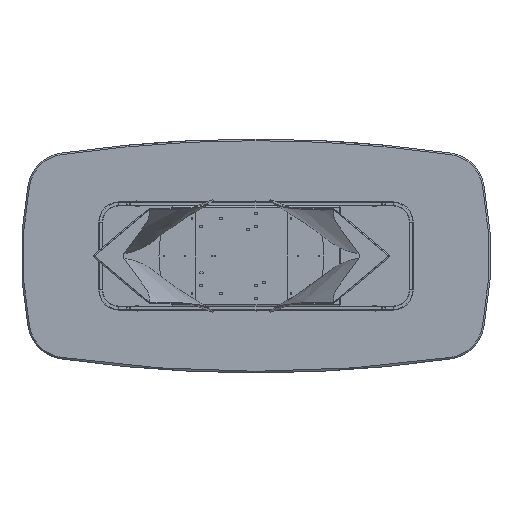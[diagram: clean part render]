
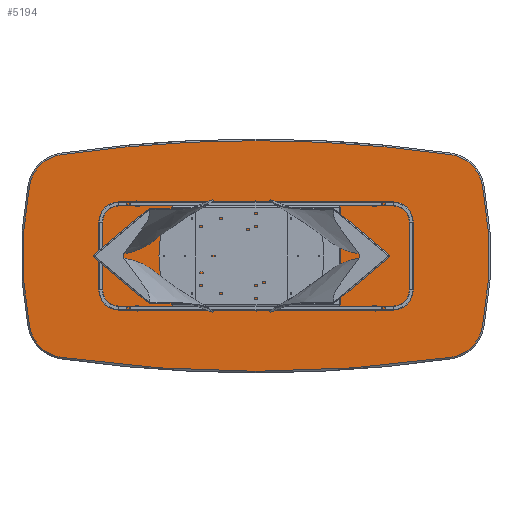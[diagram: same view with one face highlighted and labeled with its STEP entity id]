
A CAD part, front view. The second image highlights one B-rep face of the part: STEP entity #5194.
In plain terms, the highlighted planar face has unit normal (0, -1, 0).
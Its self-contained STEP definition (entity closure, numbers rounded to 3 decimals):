
#122 = CARTESIAN_POINT ( 'NONE',  ( 0., 0., -6355. ) ) ;
#216 = PLANE ( 'NONE',  #20228 ) ;
#403 = VERTEX_POINT ( 'NONE', #22303 ) ;
#423 = AXIS2_PLACEMENT_3D ( 'NONE', #122, #18019, #9006 ) ;
#1625 = CARTESIAN_POINT ( 'NONE',  ( -963.472, 0., -325.885 ) ) ;
#1742 = CIRCLE ( 'NONE', #4725, 1892. ) ;
#2047 = DIRECTION ( 'NONE',  ( 0., 0., 1. ) ) ;
#2319 = VERTEX_POINT ( 'NONE', #14688 ) ;
#2539 = DIRECTION ( 'NONE',  ( 0., -1., 0. ) ) ;
#3446 = CARTESIAN_POINT ( 'NONE',  ( -990.878, 0., 515.919 ) ) ;
#3974 = CARTESIAN_POINT ( 'NONE',  ( -705., 0., 0. ) ) ;
#4725 = AXIS2_PLACEMENT_3D ( 'NONE', #10649, #8668, #10762 ) ;
#5194 = ADVANCED_FACE ( 'NONE', ( #5582 ), #216, .F. ) ;
#5396 = DIRECTION ( 'NONE',  ( 0., 0., 1. ) ) ;
#5472 = DIRECTION ( 'NONE',  ( 0., -1., 0. ) ) ;
#5581 = EDGE_CURVE ( 'NONE', #16828, #403, #21346, .T. ) ;
#5582 = FACE_OUTER_BOUND ( 'NONE', #18934, .T. ) ;
#7344 = CIRCLE ( 'NONE', #17807, 192. ) ;
#8267 = CIRCLE ( 'NONE', #423, 6942. ) ;
#8668 = DIRECTION ( 'NONE',  ( 0., -1., 0. ) ) ;
#8759 = DIRECTION ( 'NONE',  ( 0., -1., 0. ) ) ;
#8873 = CARTESIAN_POINT ( 'NONE',  ( -352.5, 0., 3177.5 ) ) ;
#8884 = VERTEX_POINT ( 'NONE', #3446 ) ;
#9006 = DIRECTION ( 'NONE',  ( 0., 0., 1. ) ) ;
#9341 = CARTESIAN_POINT ( 'NONE',  ( 963.472, 0., -325.885 ) ) ;
#10006 = CIRCLE ( 'NONE', #19740, 6942. ) ;
#10082 = EDGE_CURVE ( 'NONE', #2319, #15045, #1742, .T. ) ;
#10226 = ORIENTED_EDGE ( 'NONE', *, *, #10082, .T. ) ;
#10649 = CARTESIAN_POINT ( 'NONE',  ( 705., 0., 0. ) ) ;
#10716 = DIRECTION ( 'NONE',  ( 0., 0., 1. ) ) ;
#10762 = DIRECTION ( 'NONE',  ( 0., 0., 1. ) ) ;
#10834 = AXIS2_PLACEMENT_3D ( 'NONE', #9341, #5472, #14261 ) ;
#11253 = AXIS2_PLACEMENT_3D ( 'NONE', #18206, #21474, #2047 ) ;
#11795 = ORIENTED_EDGE ( 'NONE', *, *, #5581, .T. ) ;
#11937 = EDGE_CURVE ( 'NONE', #15045, #16828, #7344, .T. ) ;
#12126 = CARTESIAN_POINT ( 'NONE',  ( 1151.911, 0., -362.691 ) ) ;
#12335 = ORIENTED_EDGE ( 'NONE', *, *, #16836, .T. ) ;
#12477 = CARTESIAN_POINT ( 'NONE',  ( 963.472, 0., 325.885 ) ) ;
#12612 = DIRECTION ( 'NONE',  ( 0., 1., 0. ) ) ;
#13197 = CARTESIAN_POINT ( 'NONE',  ( -963.472, 0., 325.885 ) ) ;
#13497 = CIRCLE ( 'NONE', #17978, 192. ) ;
#13600 = VERTEX_POINT ( 'NONE', #12126 ) ;
#13792 = EDGE_CURVE ( 'NONE', #15760, #8884, #10006, .T. ) ;
#14180 = CIRCLE ( 'NONE', #17176, 1892. ) ;
#14220 = CIRCLE ( 'NONE', #19085, 192. ) ;
#14261 = DIRECTION ( 'NONE',  ( 0., 0., 1. ) ) ;
#14296 = CARTESIAN_POINT ( 'NONE',  ( 0., 0., -6355. ) ) ;
#14688 = CARTESIAN_POINT ( 'NONE',  ( -1151.911, 0., 362.691 ) ) ;
#15045 = VERTEX_POINT ( 'NONE', #21840 ) ;
#15299 = VERTEX_POINT ( 'NONE', #19268 ) ;
#15760 = VERTEX_POINT ( 'NONE', #22730 ) ;
#15889 = DIRECTION ( 'NONE',  ( 0., 0., 1. ) ) ;
#16195 = ORIENTED_EDGE ( 'NONE', *, *, #13792, .T. ) ;
#16237 = CARTESIAN_POINT ( 'NONE',  ( -990.878, 0., -515.919 ) ) ;
#16278 = EDGE_CURVE ( 'NONE', #13600, #15299, #14180, .T. ) ;
#16360 = DIRECTION ( 'NONE',  ( 0., 0., 1. ) ) ;
#16456 = CIRCLE ( 'NONE', #10834, 192. ) ;
#16828 = VERTEX_POINT ( 'NONE', #16237 ) ;
#16836 = EDGE_CURVE ( 'NONE', #403, #13600, #16456, .T. ) ;
#17034 = EDGE_CURVE ( 'NONE', #8884, #2319, #14220, .T. ) ;
#17176 = AXIS2_PLACEMENT_3D ( 'NONE', #3974, #23084, #21104 ) ;
#17204 = ORIENTED_EDGE ( 'NONE', *, *, #17579, .T. ) ;
#17579 = EDGE_CURVE ( 'NONE', #15299, #22006, #13497, .T. ) ;
#17746 = DIRECTION ( 'NONE',  ( 0., -1., 0. ) ) ;
#17807 = AXIS2_PLACEMENT_3D ( 'NONE', #1625, #8759, #15889 ) ;
#17978 = AXIS2_PLACEMENT_3D ( 'NONE', #12477, #17746, #10716 ) ;
#18019 = DIRECTION ( 'NONE',  ( 0., -1., 0. ) ) ;
#18206 = CARTESIAN_POINT ( 'NONE',  ( 0., 0., 6355. ) ) ;
#18557 = ORIENTED_EDGE ( 'NONE', *, *, #16278, .T. ) ;
#18576 = DIRECTION ( 'NONE',  ( 0., 0., 1. ) ) ;
#18934 = EDGE_LOOP ( 'NONE', ( #19653, #11795, #12335, #18557, #17204, #20262, #16195, #20708, #10226 ) ) ;
#19085 = AXIS2_PLACEMENT_3D ( 'NONE', #13197, #2539, #18576 ) ;
#19268 = CARTESIAN_POINT ( 'NONE',  ( 1151.911, 0., 362.691 ) ) ;
#19653 = ORIENTED_EDGE ( 'NONE', *, *, #11937, .T. ) ;
#19740 = AXIS2_PLACEMENT_3D ( 'NONE', #14296, #21427, #5396 ) ;
#20117 = CARTESIAN_POINT ( 'NONE',  ( 990.878, 0., 515.919 ) ) ;
#20228 = AXIS2_PLACEMENT_3D ( 'NONE', #8873, #12612, #16360 ) ;
#20262 = ORIENTED_EDGE ( 'NONE', *, *, #22917, .T. ) ;
#20708 = ORIENTED_EDGE ( 'NONE', *, *, #17034, .T. ) ;
#21104 = DIRECTION ( 'NONE',  ( 0., 0., 1. ) ) ;
#21346 = CIRCLE ( 'NONE', #11253, 6942. ) ;
#21427 = DIRECTION ( 'NONE',  ( 0., -1., 0. ) ) ;
#21474 = DIRECTION ( 'NONE',  ( 0., -1., 0. ) ) ;
#21840 = CARTESIAN_POINT ( 'NONE',  ( -1151.911, 0., -362.691 ) ) ;
#22006 = VERTEX_POINT ( 'NONE', #20117 ) ;
#22303 = CARTESIAN_POINT ( 'NONE',  ( 990.878, 0., -515.919 ) ) ;
#22730 = CARTESIAN_POINT ( 'NONE',  ( 0., 0., 587. ) ) ;
#22917 = EDGE_CURVE ( 'NONE', #22006, #15760, #8267, .T. ) ;
#23084 = DIRECTION ( 'NONE',  ( 0., -1., 0. ) ) ;
